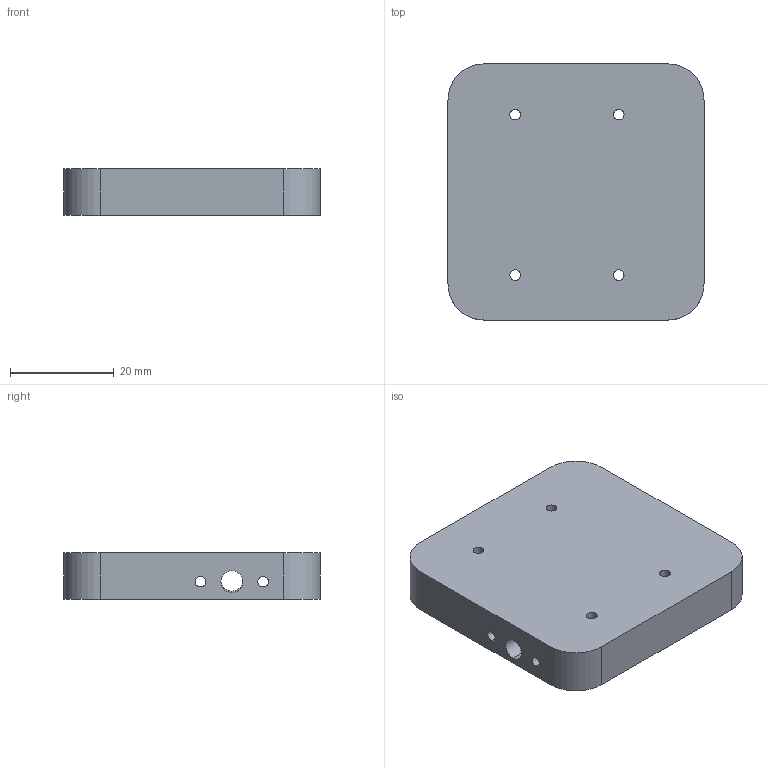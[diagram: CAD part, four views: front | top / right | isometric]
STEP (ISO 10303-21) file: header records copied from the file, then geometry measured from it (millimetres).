
FILE_DESCRIPTION (( 'STEP AP214' ), '1' );
FILE_NAME ('菁褲.STEP', '2026-04-27T16:08:34', ( '' ), ( '' ), 'SwSTEP 2.0', 'SolidWorks 2021', '' );
FILE_SCHEMA (( 'AUTOMOTIVE_DESIGN' ));
Length unit declared in the file: millimetre
Products named in the file (1): 菁褲
Bounding box: 49.5 x 49.5 x 9 mm (x, y, z)
Volume: 11028.4 mm3; surface area: 7590.7 mm2
Topology: 1 solids, 1 shells, 42 faces, 120 edges, 80 vertices
Faces by surface type: cylinder 28, plane 14
Entity records: 1650 total; most frequent: DIRECTION 262, CARTESIAN_POINT 243, ORIENTED_EDGE 240, EDGE_CURVE 120, AXIS2_PLACEMENT_3D 99, VERTEX_POINT 80, VECTOR 64, LINE 64
